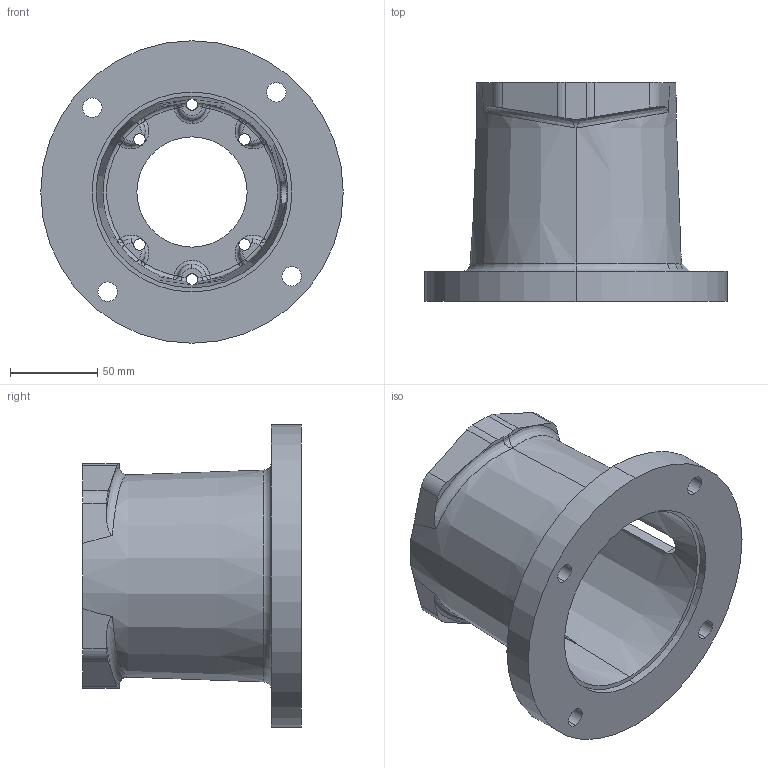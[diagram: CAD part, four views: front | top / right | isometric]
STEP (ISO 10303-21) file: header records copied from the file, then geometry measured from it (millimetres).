
FILE_DESCRIPTION (( 'STEP AP203' ), '1' );
FILE_NAME ('M0565063M.STEP', '2015-01-19T15:27:13', ( '' ), ( '' ), 'SwSTEP 2.0', 'SolidWorks 2014', '' );
FILE_SCHEMA (( 'CONFIG_CONTROL_DESIGN' ));
Length unit declared in the file: inch
Products named in the file (1): M0565063M
Bounding box: 172.97 x 125.07 x 172.97 mm (x, y, z)
Volume: 551202.4 mm3; surface area: 131728.3 mm2
Topology: 1 solids, 1 shells, 184 faces, 489 edges, 289 vertices
Faces by surface type: torus 51, cylinder 38, bspline 30, plane 27, sphere 24, cone 14
Entity records: 8058 total; most frequent: CARTESIAN_POINT 3616, ORIENTED_EDGE 950, DIRECTION 932, EDGE_CURVE 475, AXIS2_PLACEMENT_3D 428, VERTEX_POINT 289, CIRCLE 273, EDGE_LOOP 204
